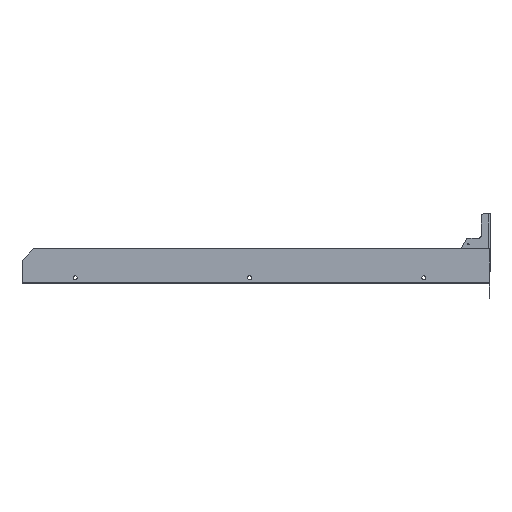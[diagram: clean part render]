
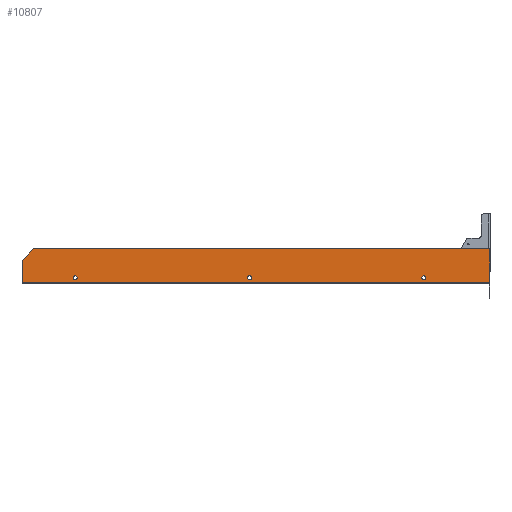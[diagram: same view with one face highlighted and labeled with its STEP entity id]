
A CAD part, left-side view. The second image highlights one B-rep face of the part: STEP entity #10807.
In plain terms, the highlighted planar face has unit normal (-1, 0, 0).
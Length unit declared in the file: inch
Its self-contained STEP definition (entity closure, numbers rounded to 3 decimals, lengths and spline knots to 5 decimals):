
#3 = VECTOR ( 'NONE', #2524, 39.37008 ) ;
#130 = ORIENTED_EDGE ( 'NONE', *, *, #20670, .F. ) ;
#138 = CIRCLE ( 'NONE', #22161, 0.336 ) ;
#265 = AXIS2_PLACEMENT_3D ( 'NONE', #22170, #12815, #7265 ) ;
#375 = DIRECTION ( 'NONE',  ( -1., 0., 0. ) ) ;
#1038 = CARTESIAN_POINT ( 'NONE',  ( 0., 40.275, 0. ) ) ;
#1815 = LINE ( 'NONE', #16831, #3 ) ;
#1879 = CIRCLE ( 'NONE', #6581, 0.336 ) ;
#2524 = DIRECTION ( 'NONE',  ( 0., 0., 1. ) ) ;
#2730 = EDGE_LOOP ( 'NONE', ( #23309, #24131, #23160, #20415, #12852 ) ) ;
#2767 = VERTEX_POINT ( 'NONE', #10754 ) ;
#2830 = DIRECTION ( 'NONE',  ( 0., 0., 1. ) ) ;
#3503 = CARTESIAN_POINT ( 'NONE',  ( 0., 40.275, 6. ) ) ;
#3845 = CARTESIAN_POINT ( 'NONE',  ( 0., -40.275, 0. ) ) ;
#4193 = ORIENTED_EDGE ( 'NONE', *, *, #11657, .F. ) ;
#4510 = EDGE_LOOP ( 'NONE', ( #8511, #24124 ) ) ;
#4674 = CARTESIAN_POINT ( 'NONE',  ( 0., 31.1175, 1. ) ) ;
#4857 = DIRECTION ( 'NONE',  ( 0., 0., -1. ) ) ;
#4883 = CARTESIAN_POINT ( 'NONE',  ( 0., -40.275, 0.208 ) ) ;
#5164 = AXIS2_PLACEMENT_3D ( 'NONE', #22197, #22557, #12845 ) ;
#5246 = CARTESIAN_POINT ( 'NONE',  ( 0., 38.275, 6. ) ) ;
#5362 = VERTEX_POINT ( 'NONE', #7327 ) ;
#5955 = CIRCLE ( 'NONE', #5164, 0.336 ) ;
#6046 = EDGE_CURVE ( 'NONE', #5362, #22169, #15165, .T. ) ;
#6581 = AXIS2_PLACEMENT_3D ( 'NONE', #13677, #375, #21180 ) ;
#6759 = EDGE_LOOP ( 'NONE', ( #17536, #18491 ) ) ;
#6823 = DIRECTION ( 'NONE',  ( 1., 0., 0. ) ) ;
#6857 = LINE ( 'NONE', #5246, #14657 ) ;
#6862 = EDGE_CURVE ( 'NONE', #2767, #17087, #7738, .T. ) ;
#7265 = DIRECTION ( 'NONE',  ( 0., 0., 1. ) ) ;
#7327 = CARTESIAN_POINT ( 'NONE',  ( 0., 1.1175, 1.336 ) ) ;
#7438 = DIRECTION ( 'NONE',  ( 0., -1., 0. ) ) ;
#7652 = DIRECTION ( 'NONE',  ( 0., 0., 1. ) ) ;
#7738 = CIRCLE ( 'NONE', #265, 0.336 ) ;
#8511 = ORIENTED_EDGE ( 'NONE', *, *, #6862, .F. ) ;
#9331 = CARTESIAN_POINT ( 'NONE',  ( 0., -28.8825, 0.664 ) ) ;
#9634 = VERTEX_POINT ( 'NONE', #18028 ) ;
#9795 = VERTEX_POINT ( 'NONE', #22456 ) ;
#10270 = DIRECTION ( 'NONE',  ( 0., 0., 1. ) ) ;
#10430 = VERTEX_POINT ( 'NONE', #4883 ) ;
#10435 = DIRECTION ( 'NONE',  ( 0., 0.707, -0.707 ) ) ;
#10588 = DIRECTION ( 'NONE',  ( -1., 0., 0. ) ) ;
#10754 = CARTESIAN_POINT ( 'NONE',  ( 0., -28.8825, 1.336 ) ) ;
#10807 = ADVANCED_FACE ( 'NONE', ( #22096, #14100, #16062, #20125 ), #14462, .F. ) ;
#11117 = LINE ( 'NONE', #3845, #23805 ) ;
#11396 = DIRECTION ( 'NONE',  ( -1., 0., 0. ) ) ;
#11657 = EDGE_CURVE ( 'NONE', #16057, #19310, #21701, .T. ) ;
#12604 = EDGE_CURVE ( 'NONE', #10430, #9634, #11117, .T. ) ;
#12815 = DIRECTION ( 'NONE',  ( -1., 0., 0. ) ) ;
#12845 = DIRECTION ( 'NONE',  ( 0., 0., 1. ) ) ;
#12852 = ORIENTED_EDGE ( 'NONE', *, *, #12604, .T. ) ;
#12984 = LINE ( 'NONE', #3503, #17226 ) ;
#13242 = CARTESIAN_POINT ( 'NONE',  ( 0., 1.1175, 1. ) ) ;
#13374 = VECTOR ( 'NONE', #22087, 39.37008 ) ;
#13677 = CARTESIAN_POINT ( 'NONE',  ( 0., 31.1175, 1. ) ) ;
#14100 = FACE_BOUND ( 'NONE', #4510, .T. ) ;
#14265 = VERTEX_POINT ( 'NONE', #20554 ) ;
#14462 = PLANE ( 'NONE',  #20884 ) ;
#14565 = CARTESIAN_POINT ( 'NONE',  ( 0., 40.275, 0.208 ) ) ;
#14657 = VECTOR ( 'NONE', #10435, 39.37008 ) ;
#14955 = DIRECTION ( 'NONE',  ( 0., 0., 1. ) ) ;
#15165 = CIRCLE ( 'NONE', #18706, 0.336 ) ;
#16057 = VERTEX_POINT ( 'NONE', #18806 ) ;
#16062 = FACE_BOUND ( 'NONE', #6759, .T. ) ;
#16413 = LINE ( 'NONE', #14565, #13374 ) ;
#16723 = EDGE_LOOP ( 'NONE', ( #4193, #130 ) ) ;
#16831 = CARTESIAN_POINT ( 'NONE',  ( 0., 40.275, 0. ) ) ;
#17087 = VERTEX_POINT ( 'NONE', #9331 ) ;
#17226 = VECTOR ( 'NONE', #7438, 39.37008 ) ;
#17525 = VERTEX_POINT ( 'NONE', #23568 ) ;
#17536 = ORIENTED_EDGE ( 'NONE', *, *, #6046, .F. ) ;
#17557 = EDGE_CURVE ( 'NONE', #17087, #2767, #5955, .T. ) ;
#18009 = DIRECTION ( 'NONE',  ( -1., 0., 0. ) ) ;
#18028 = CARTESIAN_POINT ( 'NONE',  ( 0., -40.275, 6. ) ) ;
#18491 = ORIENTED_EDGE ( 'NONE', *, *, #23111, .F. ) ;
#18706 = AXIS2_PLACEMENT_3D ( 'NONE', #13242, #11396, #14955 ) ;
#18708 = EDGE_CURVE ( 'NONE', #14265, #17525, #1815, .T. ) ;
#18735 = EDGE_CURVE ( 'NONE', #14265, #10430, #16413, .T. ) ;
#18806 = CARTESIAN_POINT ( 'NONE',  ( 0., 31.1175, 1.336 ) ) ;
#19310 = VERTEX_POINT ( 'NONE', #23911 ) ;
#19628 = CARTESIAN_POINT ( 'NONE',  ( 0., 1.1175, 1. ) ) ;
#20034 = CARTESIAN_POINT ( 'NONE',  ( 0., 1.1175, 0.664 ) ) ;
#20125 = FACE_OUTER_BOUND ( 'NONE', #2730, .T. ) ;
#20415 = ORIENTED_EDGE ( 'NONE', *, *, #18735, .T. ) ;
#20520 = AXIS2_PLACEMENT_3D ( 'NONE', #4674, #10588, #2830 ) ;
#20554 = CARTESIAN_POINT ( 'NONE',  ( 0., 40.275, 0.208 ) ) ;
#20670 = EDGE_CURVE ( 'NONE', #19310, #16057, #1879, .T. ) ;
#20884 = AXIS2_PLACEMENT_3D ( 'NONE', #1038, #6823, #4857 ) ;
#21180 = DIRECTION ( 'NONE',  ( 0., 0., 1. ) ) ;
#21534 = EDGE_CURVE ( 'NONE', #9795, #9634, #12984, .T. ) ;
#21701 = CIRCLE ( 'NONE', #20520, 0.336 ) ;
#22087 = DIRECTION ( 'NONE',  ( 0., -1., 0. ) ) ;
#22096 = FACE_BOUND ( 'NONE', #16723, .T. ) ;
#22161 = AXIS2_PLACEMENT_3D ( 'NONE', #19628, #18009, #10270 ) ;
#22169 = VERTEX_POINT ( 'NONE', #20034 ) ;
#22170 = CARTESIAN_POINT ( 'NONE',  ( 0., -28.8825, 1. ) ) ;
#22182 = EDGE_CURVE ( 'NONE', #9795, #17525, #6857, .T. ) ;
#22197 = CARTESIAN_POINT ( 'NONE',  ( 0., -28.8825, 1. ) ) ;
#22456 = CARTESIAN_POINT ( 'NONE',  ( 0., 38.275, 6. ) ) ;
#22557 = DIRECTION ( 'NONE',  ( -1., 0., 0. ) ) ;
#23111 = EDGE_CURVE ( 'NONE', #22169, #5362, #138, .T. ) ;
#23160 = ORIENTED_EDGE ( 'NONE', *, *, #18708, .F. ) ;
#23309 = ORIENTED_EDGE ( 'NONE', *, *, #21534, .F. ) ;
#23568 = CARTESIAN_POINT ( 'NONE',  ( 0., 40.275, 4. ) ) ;
#23805 = VECTOR ( 'NONE', #7652, 39.37008 ) ;
#23911 = CARTESIAN_POINT ( 'NONE',  ( 0., 31.1175, 0.664 ) ) ;
#24124 = ORIENTED_EDGE ( 'NONE', *, *, #17557, .F. ) ;
#24131 = ORIENTED_EDGE ( 'NONE', *, *, #22182, .T. ) ;
